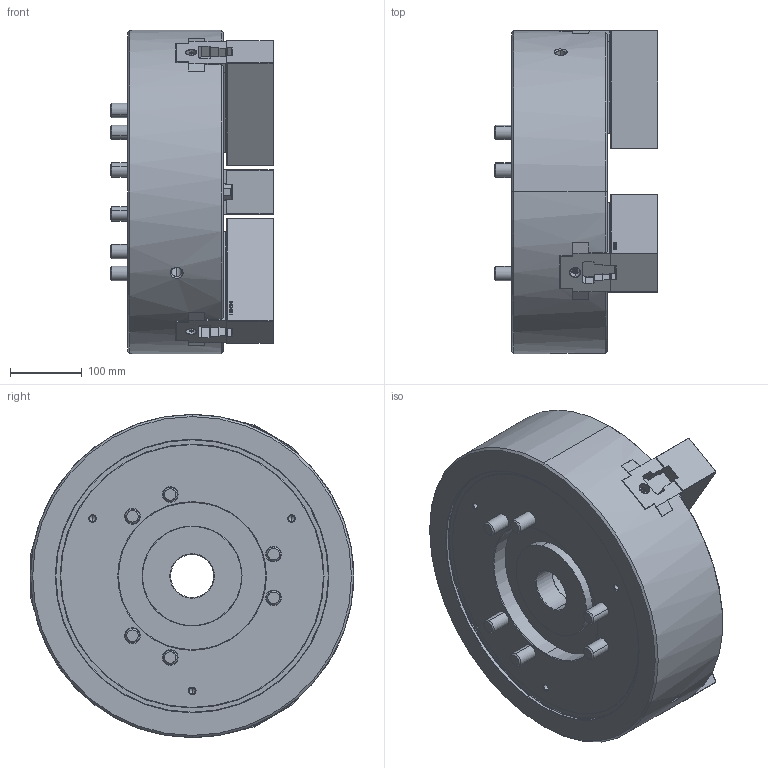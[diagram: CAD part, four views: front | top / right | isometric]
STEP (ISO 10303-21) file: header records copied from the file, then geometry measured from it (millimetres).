
FILE_DESCRIPTION (( 'STEP AP214' ), '1' );
FILE_NAME ('B-18_UC.STEP', '2025-04-23T09:46:13', ( '' ), ( '' ), 'SwSTEP 2.0', 'SolidWorks 2022', '' );
FILE_SCHEMA (( 'AUTOMOTIVE_DESIGN' ));
Length unit declared in the file: millimetre
Products named in the file (9): Copy of 61P304554^B-18_61P231303; Copy of 0030106016^B-18_61P231303; Copy of 61P401172^B-18_61P231303; Copy of 0030120130^B-18_61P231303; Copy of 0030120060^B-18_61P231303; B-18_UC; Copy of 61P303047^B-18_61P231303; Part32^B-18_61P231303; Copy of 6013P0029^B-18_61P231303
Assembly tree (27 placements, depth 2):
  B-18_UC
    Copy of 61P303047^B-18_61P231303  x3
    Copy of 61P401172^B-18_61P231303  x3
    Copy of 6013P0029^B-18_61P231303
    Copy of 61P304554^B-18_61P231303
    Copy of 0030106016^B-18_61P231303  x6
    Copy of 0030120060^B-18_61P231303  x6
    Copy of 0030120130^B-18_61P231303  x6
    Part32^B-18_61P231303
Bounding box: 227 x 450.25 x 450 mm (x, y, z)
Volume: 20501734.1 mm3; surface area: 1238453 mm2
Topology: 27 solids, 48 shells, 9724 faces, 27782 edges, 18360 vertices
Faces by surface type: plane 5830, cylinder 2389, bspline 975, cone 459, torus 63, sphere 8
Entity records: 247674 total; most frequent: CARTESIAN_POINT 81453, ORIENTED_EDGE 38800, DIRECTION 28257, EDGE_CURVE 19400, VECTOR 13843, LINE 13843, VERTEX_POINT 12839, AXIS2_PLACEMENT_3D 7207
